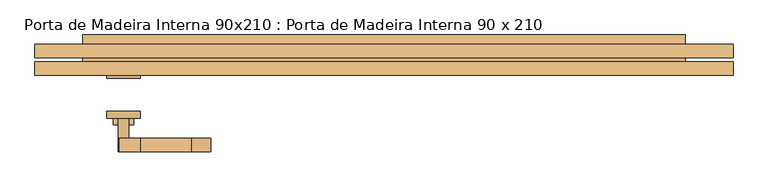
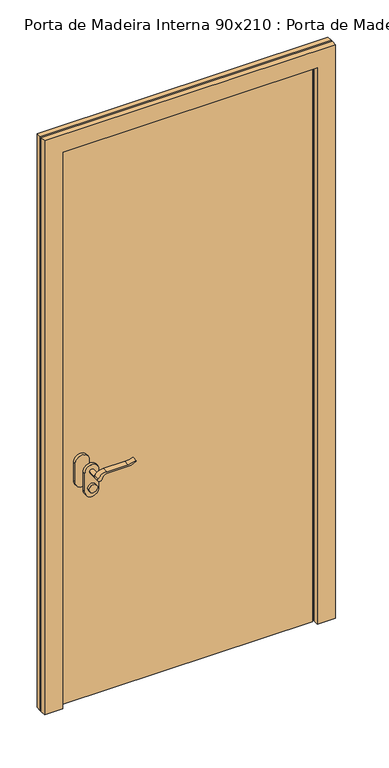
"""IFC4 building model written with IfcOpenShell, lengths in millimetres: door geometry, Porta de Madeira Interna 90x210 : Porta de Madeira Interna 90 x 210."""

from ifc_helpers import new_model, si_unit, point, frame, frame_2d, origin, origin_with_axes, place, context, project, spatial, polyline, circle_curve, trimmed, segment, composite_curve, outline, extrude, source, transform, mapped, element, save


def porta_de_madeira_interna_90x210_porta_de_madeira_interna_90_5963f6ac(model_context):
    return source(origin(), model_context, "Body", "SweptSolid", [
        extrude(outline(composite_curve([segment(trimmed(circle_curve(frame_2d((854.4, -389.0)), 15.0), [point((854.4, -374.0))], [point((854.4, -404.0))], False, "CARTESIAN"), True, "CONTINUOUS"), segment(trimmed(circle_curve(frame_2d((854.4, -389.0)), 15.0), [point((854.4, -404.0))], [point((854.4, -374.0))], False, "CARTESIAN"), True, "CONTINUOUS")], self_intersect=False)), frame((0.0, -13.975, 0.0), z_axis=(0.0, 1.0, 0.0), x_axis=(0.0, 0.0, 1.0)), (0.0, 0.0, 1.0), 10.0),
        extrude(outline(composite_curve([segment(trimmed(circle_curve(frame_2d((854.4, -389.0)), 15.0), [point((854.4, -374.0))], [point((854.4, -404.0))], False, "CARTESIAN"), True, "CONTINUOUS"), segment(trimmed(circle_curve(frame_2d((854.4, -389.0)), 15.0), [point((854.4, -404.0))], [point((854.4, -374.0))], False, "CARTESIAN"), True, "CONTINUOUS")], self_intersect=False)), frame((0.0, -93.975, 0.0), z_axis=(0.0, 1.0, 0.0), x_axis=(0.0, 0.0, 1.0)), (0.0, 0.0, 1.0), 10.0),
        extrude(outline(composite_curve([segment(trimmed(circle_curve(frame_2d((914.4, -389.0)), 8.0), [point((919.0523287, -395.5081363))], [point((914.4, -381.0))], False, "CARTESIAN"), True, "CONTINUOUS"), segment(trimmed(circle_curve(frame_2d((909.2738613, -363.6138099)), 18.1261387), [point((914.4, -381.0))], [point((927.4, -363.6138099))], True, "CARTESIAN"), True, "CONTINUOUS"), segment(polyline([(927.4, -363.6138099), (927.4, -287.3564091)]), True, "CONTINUOUS"), segment(trimmed(circle_curve(frame_2d((986.6709207, -290.9396612)), 59.3791355), [point((927.4, -287.3564091))], [point((936.6135558, -259.0))], False, "CARTESIAN"), True, "CONTINUOUS"), segment(polyline([(936.6135558, -259.0), (939.4, -259.0)]), True, "CONTINUOUS"), segment(trimmed(circle_curve(frame_2d((1017.6850638, -287.4227909)), 83.2850902), [point((939.4, -259.0))], [point((934.4, -287.3564091))], True, "CARTESIAN"), True, "CONTINUOUS"), segment(polyline([(934.4, -287.3564091), (934.4, -363.6325667)]), True, "CONTINUOUS"), segment(trimmed(circle_curve(frame_2d((897.1555521, -365.3324871)), 37.2832219), [point((934.4, -363.6325667))], [point((919.0523287, -395.5081363))], False, "CARTESIAN"), True, "CONTINUOUS")], self_intersect=False)), frame((0.0, 16.025, 0.0), z_axis=(0.0, 1.0, 0.0), x_axis=(0.0, 0.0, 1.0)), (0.0, 0.0, 1.0), 20.0),
        extrude(outline(composite_curve([segment(trimmed(circle_curve(frame_2d((909.2738682, -363.6138122)), 18.1261318), [point((914.3999903, -381.0))], [point((927.4, -363.6138122))], True, "CARTESIAN"), True, "CONTINUOUS"), segment(polyline([(927.4, -363.6138122), (927.4, -287.3564091)]), True, "CONTINUOUS"), segment(trimmed(circle_curve(frame_2d((986.6709207, -290.9396612)), 59.3791355), [point((927.4, -287.3564091))], [point((936.6135558, -259.0))], False, "CARTESIAN"), True, "CONTINUOUS"), segment(polyline([(936.6135558, -259.0), (939.4, -259.0)]), True, "CONTINUOUS"), segment(trimmed(circle_curve(frame_2d((1017.6850638, -287.4227909)), 83.2850902), [point((939.4, -259.0))], [point((934.4, -287.3564091))], True, "CARTESIAN"), True, "CONTINUOUS"), segment(polyline([(934.4, -287.3564091), (934.4, -363.6325667)]), True, "CONTINUOUS"), segment(trimmed(circle_curve(frame_2d((897.1555521, -365.3324871)), 37.2832219), [point((934.4, -363.6325667))], [point((919.0523287, -395.5081363))], False, "CARTESIAN"), True, "CONTINUOUS"), segment(trimmed(circle_curve(frame_2d((914.4, -389.0)), 8.0), [point((919.0523287, -395.5081363))], [point((914.3999903, -381.0))], False, "CARTESIAN"), True, "CONTINUOUS")], self_intersect=False)), frame((0.0, -133.975, 0.0), z_axis=(0.0, 1.0, 0.0), x_axis=(0.0, 0.0, 1.0)), (0.0, 0.0, 1.0), 20.0),
        extrude(outline(composite_curve([segment(trimmed(circle_curve(frame_2d((914.4, -389.0)), 8.0), [point((914.4, -381.0))], [point((914.4, -397.0))], False, "CARTESIAN"), True, "CONTINUOUS"), segment(trimmed(circle_curve(frame_2d((914.4, -389.0)), 8.0), [point((914.4, -397.0))], [point((914.4, -381.0))], False, "CARTESIAN"), True, "CONTINUOUS")], self_intersect=False)), frame((0.0, -13.975, 0.0), z_axis=(0.0, 1.0, 0.0), x_axis=(0.0, 0.0, 1.0)), (0.0, 0.0, 1.0), 30.0),
        extrude(outline(composite_curve([segment(trimmed(circle_curve(frame_2d((914.4, -389.0)), 8.0), [point((914.4, -381.0))], [point((914.4, -397.0))], False, "CARTESIAN"), True, "CONTINUOUS"), segment(trimmed(circle_curve(frame_2d((914.4, -389.0)), 8.0), [point((914.4, -397.0))], [point((914.4, -381.0))], False, "CARTESIAN"), True, "CONTINUOUS")], self_intersect=False)), frame((0.0, -113.975, 0.0), z_axis=(0.0, 1.0, 0.0), x_axis=(0.0, 0.0, 1.0)), (0.0, 0.0, 1.0), 30.0),
        extrude(outline(composite_curve([segment(trimmed(circle_curve(frame_2d((844.4, -389.0)), 25.0), [point((844.4, -414.0))], [point((844.4, -364.0))], False, "CARTESIAN"), True, "CONTINUOUS"), segment(polyline([(844.4, -364.0), (914.4, -364.0)]), True, "CONTINUOUS"), segment(trimmed(circle_curve(frame_2d((914.4, -389.0)), 25.0), [point((914.4, -364.0))], [point((914.4, -414.0))], False, "CARTESIAN"), True, "CONTINUOUS"), segment(polyline([(914.4, -414.0), (844.4, -414.0)]), True, "CONTINUOUS")], self_intersect=False)), frame((0.0, -23.975, 0.0), z_axis=(0.0, 1.0, 0.0), x_axis=(0.0, 0.0, 1.0)), (0.0, 0.0, 1.0), 10.0),
        extrude(outline(composite_curve([segment(trimmed(circle_curve(frame_2d((844.4, -389.0)), 25.0), [point((844.4, -414.0))], [point((844.4, -364.0))], False, "CARTESIAN"), True, "CONTINUOUS"), segment(polyline([(844.4, -364.0), (914.4, -364.0)]), True, "CONTINUOUS"), segment(trimmed(circle_curve(frame_2d((914.4, -389.0)), 25.0), [point((914.4, -364.0))], [point((914.4, -414.0))], False, "CARTESIAN"), True, "CONTINUOUS"), segment(polyline([(914.4, -414.0), (844.4, -414.0)]), True, "CONTINUOUS")], self_intersect=False)), frame((0.0, -83.975, 0.0), z_axis=(0.0, 1.0, 0.0), x_axis=(0.0, 0.0, 1.0)), (0.0, 0.0, 1.0), 10.0),
        extrude(outline(polyline([(450.0, 40.175), (450.0, 0.175), (-450.0, 0.175), (-450.0, 40.175), (450.0, 40.175)])), origin_with_axes(), (0.0, 0.0, 1.0), 2100.0),
        extrude(outline(polyline([(0.0, 521.35), (2171.35, 521.35), (2171.35, -521.35), (0.0, -521.35), (0.0, -456.35), (2106.35, -456.35), (2106.35, 456.35), (0.0, 456.35), (0.0, 521.35)])), frame((0.0, 6.175, 0.0), z_axis=(0.0, 1.0, 0.0), x_axis=(0.0, 0.0, 1.0)), (0.0, 0.0, 1.0), 20.0),
        extrude(outline(polyline([(0.0, 521.35), (2171.35, 521.35), (2171.35, -521.35), (0.0, -521.35), (0.0, -456.35), (2106.35, -456.35), (2106.35, 456.35), (0.0, 456.35), (0.0, 521.35)])), frame((0.0, -19.825, 0.0), z_axis=(0.0, 1.0, 0.0), x_axis=(0.0, 0.0, 1.0)), (0.0, 0.0, 1.0), 20.0),
    ])


if __name__ == "__main__":
    model = new_model("IFC4")
    model_context = context("Model", 3, world=origin())
    ifc_project = project(units=[si_unit("LENGTHUNIT", "METRE", prefix="MILLI")], contexts=[model_context])
    site = spatial("IfcSite", under=ifc_project)
    building = spatial("IfcBuilding", under=site)
    placement = place(None, origin())
    porta_de_madeira_interna_90x210_porta_de_madeira_interna_90_shape = porta_de_madeira_interna_90x210_porta_de_madeira_interna_90_5963f6ac(model_context)
    element("IfcDoor", 1, ObjectType="Porta de Madeira Interna 90x210 : Porta de Madeira Interna 90 x 210", at=placement, inside=building, context=model_context, shape_type="MappedRepresentation", body=[
        mapped(porta_de_madeira_interna_90x210_porta_de_madeira_interna_90_shape, transform((0.0, 0.0, 0.0), x_axis=(1.0, 0.0, 0.0), y_axis=(0.0, 1.0, 0.0), z_axis=(0.0, 0.0, 1.0))),
    ])
    save(model, "model.ifc")
